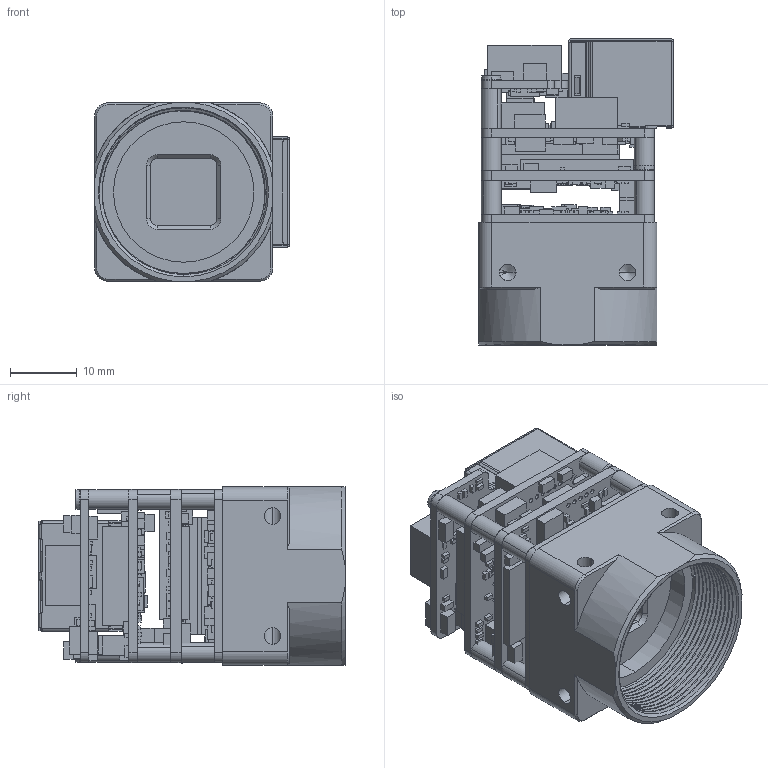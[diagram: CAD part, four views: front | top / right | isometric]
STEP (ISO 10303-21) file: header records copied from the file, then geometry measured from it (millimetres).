
FILE_DESCRIPTION (( 'STEP AP214' ), '1' );
FILE_NAME ('HMC-P.STEP', '2025-06-13T11:26:31', ( '' ), ( '' ), 'SwSTEP 2.0', 'SolidWorks 2022', '' );
FILE_SCHEMA (( 'AUTOMOTIVE_DESIGN' ));
Length unit declared in the file: millimetre
Products named in the file (10): S180001-008; MPT-003; PS304-002B; S240001-001_W; S180001-009; HMC-P; MG26H-003-RJ45; PS178-003; ML26-005; GB_CROSS_SCREWS_TYPE135 M2X5-N_GB_CROSS_SCREWS_TYPE135 M2X5-N
Assembly tree (20 placements, depth 2):
  HMC-P
    S240001-001_W
    PS178-003
    PS304-002B
    MPT-003
    ML26-005
    MG26H-003-RJ45
    S180001-008  x8
    S180001-009  x2
    GB_CROSS_SCREWS_TYPE135 M2X5-N_GB_CROSS_SCREWS_TYPE135 M2X5-N  x4
Bounding box: 29.3 x 46.01 x 26.8 mm (x, y, z)
Volume: 15304.9 mm3; surface area: 26522.6 mm2
Topology: 446 solids, 446 shells, 3963 faces, 9040 edges, 5948 vertices
Faces by surface type: plane 3406, cylinder 457, cone 86, torus 8, bspline 4, sphere 2
Entity records: 151121 total; most frequent: CARTESIAN_POINT 21961, ORIENTED_EDGE 17224, DIRECTION 16173, EDGE_CURVE 8612, VECTOR 7655, LINE 7655, VERTEX_POINT 5697, AXIS2_PLACEMENT_3D 4259
